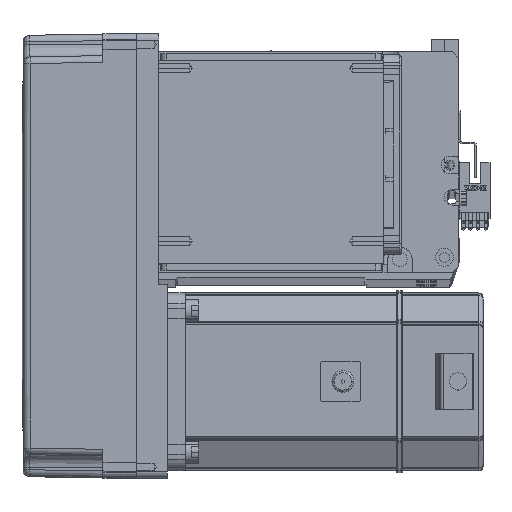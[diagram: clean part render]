
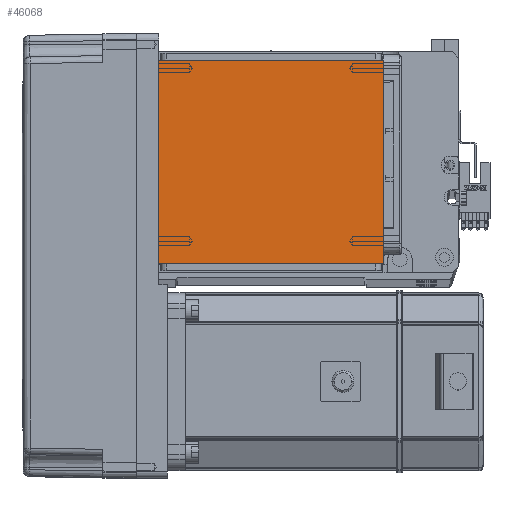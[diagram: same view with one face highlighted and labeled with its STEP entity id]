
A CAD part, top view. The second image highlights one B-rep face of the part: STEP entity #46068.
In plain terms, the highlighted planar face has unit normal (0, 0, 1).
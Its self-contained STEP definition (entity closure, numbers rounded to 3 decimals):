
#2592 = LINE ( 'NONE', #44807, #49006 ) ;
#2926 = DIRECTION ( 'NONE',  ( 0., 1., 0. ) ) ;
#5936 = CARTESIAN_POINT ( 'NONE',  ( 0., 0., 115. ) ) ;
#6985 = DIRECTION ( 'NONE',  ( 1., 0., 0. ) ) ;
#13585 = EDGE_CURVE ( 'NONE', #38094, #21182, #2592, .T. ) ;
#17011 = ORIENTED_EDGE ( 'NONE', *, *, #26019, .T. ) ;
#18068 = AXIS2_PLACEMENT_3D ( 'NONE', #5936, #49022, #20295 ) ;
#20190 = VERTEX_POINT ( 'NONE', #56506 ) ;
#20272 = LINE ( 'NONE', #56307, #47245 ) ;
#20295 = DIRECTION ( 'NONE',  ( 1., 0., 0. ) ) ;
#21182 = VERTEX_POINT ( 'NONE', #57338 ) ;
#22755 = ORIENTED_EDGE ( 'NONE', *, *, #61811, .F. ) ;
#24667 = EDGE_CURVE ( 'NONE', #20190, #21182, #48215, .T. ) ;
#26019 = EDGE_CURVE ( 'NONE', #38094, #55604, #60746, .T. ) ;
#26749 = DIRECTION ( 'NONE',  ( 0., -1., 0. ) ) ;
#31677 = ORIENTED_EDGE ( 'NONE', *, *, #13585, .F. ) ;
#33333 = CARTESIAN_POINT ( 'NONE',  ( -50.5, 111.5, 115. ) ) ;
#35980 = EDGE_LOOP ( 'NONE', ( #31677, #17011, #22755, #42013 ) ) ;
#37231 = DIRECTION ( 'NONE',  ( -1., 0., 0. ) ) ;
#38094 = VERTEX_POINT ( 'NONE', #33333 ) ;
#39140 = FACE_OUTER_BOUND ( 'NONE', #35980, .T. ) ;
#42013 = ORIENTED_EDGE ( 'NONE', *, *, #24667, .T. ) ;
#44807 = CARTESIAN_POINT ( 'NONE',  ( -70.004, 111.5, 115. ) ) ;
#46068 = ADVANCED_FACE ( 'NONE', ( #39140 ), #58820, .T. ) ;
#46528 = VECTOR ( 'NONE', #26749, 1000. ) ;
#47245 = VECTOR ( 'NONE', #37231, 1000. ) ;
#48215 = LINE ( 'NONE', #50641, #57924 ) ;
#49006 = VECTOR ( 'NONE', #6985, 1000. ) ;
#49022 = DIRECTION ( 'NONE',  ( 0., 0., 1. ) ) ;
#50641 = CARTESIAN_POINT ( 'NONE',  ( 50.5, 122., 115. ) ) ;
#55442 = CARTESIAN_POINT ( 'NONE',  ( -50.5, 122., 115. ) ) ;
#55604 = VERTEX_POINT ( 'NONE', #59872 ) ;
#56307 = CARTESIAN_POINT ( 'NONE',  ( -70.004, 20., 115. ) ) ;
#56506 = CARTESIAN_POINT ( 'NONE',  ( 50.5, 20., 115. ) ) ;
#57338 = CARTESIAN_POINT ( 'NONE',  ( 50.5, 111.5, 115. ) ) ;
#57924 = VECTOR ( 'NONE', #2926, 1000. ) ;
#58820 = PLANE ( 'NONE',  #18068 ) ;
#59872 = CARTESIAN_POINT ( 'NONE',  ( -50.5, 20., 115. ) ) ;
#60746 = LINE ( 'NONE', #55442, #46528 ) ;
#61811 = EDGE_CURVE ( 'NONE', #20190, #55604, #20272, .T. ) ;
